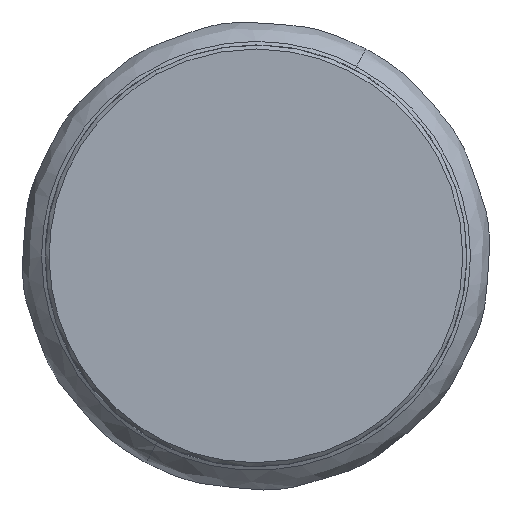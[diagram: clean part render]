
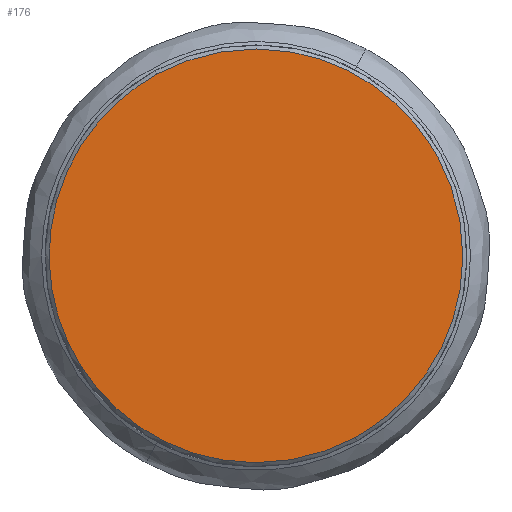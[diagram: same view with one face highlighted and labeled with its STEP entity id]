
A CAD part, left-side view. The second image highlights one B-rep face of the part: STEP entity #176.
In plain terms, the highlighted free-form (B-spline) face has degree [1, 1] with [2, 2] control points.
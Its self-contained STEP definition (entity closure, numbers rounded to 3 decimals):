
#176=ADVANCED_FACE('',(#349),#350,.T.);
#349=FACE_OUTER_BOUND('',#974,.T.);
#350=B_SPLINE_SURFACE_WITH_KNOTS('',1,1,((#975,#976),(#977,#978)),.UNSPECIFIED.,.F.,.F.,.F.,(2,2),(2,2),(0.0,31.1),(0.0,31.1),.UNSPECIFIED.);
#974=EDGE_LOOP('',(#1339,#1340,#1341));
#975=CARTESIAN_POINT('',(-36.441,-15.55,-15.55));
#976=CARTESIAN_POINT('',(-36.441,15.55,-15.55));
#977=CARTESIAN_POINT('',(-36.441,-15.55,15.55));
#978=CARTESIAN_POINT('',(-36.441,15.55,15.55));
#1339=ORIENTED_EDGE('',*,*,#1388,.F.);
#1340=ORIENTED_EDGE('',*,*,#1387,.F.);
#1341=ORIENTED_EDGE('',*,*,#1440,.F.);
#1387=EDGE_CURVE('',#1591,#1593,#1594,.T.);
#1388=EDGE_CURVE('',#1593,#1595,#1596,.T.);
#1440=EDGE_CURVE('',#1595,#1591,#1673,.T.);
#1591=VERTEX_POINT('',#2008);
#1593=VERTEX_POINT('',#2011);
#1594=(B_SPLINE_CURVE(2,(#2013,#2014,#2015),.UNSPECIFIED.,.F.,.F.)B_SPLINE_CURVE_WITH_KNOTS((3,3),(4.712,6.283),.UNSPECIFIED.)RATIONAL_B_SPLINE_CURVE((1.0,0.707,1.0))BOUNDED_CURVE()REPRESENTATION_ITEM('')GEOMETRIC_REPRESENTATION_ITEM()CURVE());
#1595=VERTEX_POINT('',#2022);
#1596=(B_SPLINE_CURVE(2,(#2024,#2025,#2026),.UNSPECIFIED.,.F.,.F.)B_SPLINE_CURVE_WITH_KNOTS((3,3),(0.,1.571),.UNSPECIFIED.)RATIONAL_B_SPLINE_CURVE((1.0,0.707,1.0))BOUNDED_CURVE()REPRESENTATION_ITEM('')GEOMETRIC_REPRESENTATION_ITEM()CURVE());
#1673=(B_SPLINE_CURVE(2,(#2204,#2205,#2206,#2207,#2208),.UNSPECIFIED.,.F.,.F.)B_SPLINE_CURVE_WITH_KNOTS((3,2,3),(1.571,3.142,4.712),.UNSPECIFIED.)RATIONAL_B_SPLINE_CURVE((1.0,0.707,1.0,0.707,1.0))BOUNDED_CURVE()REPRESENTATION_ITEM('')GEOMETRIC_REPRESENTATION_ITEM()CURVE());
#2008=CARTESIAN_POINT('',(-36.441,7.455,13.646));
#2011=CARTESIAN_POINT('',(-36.441,-13.646,7.455));
#2013=CARTESIAN_POINT('',(-36.441,7.455,13.646));
#2014=CARTESIAN_POINT('',(-36.441,-6.191,21.101));
#2015=CARTESIAN_POINT('',(-36.441,-13.646,7.455));
#2022=CARTESIAN_POINT('',(-36.441,-7.455,-13.646));
#2024=CARTESIAN_POINT('',(-36.441,-13.646,7.455));
#2025=CARTESIAN_POINT('',(-36.441,-21.101,-6.191));
#2026=CARTESIAN_POINT('',(-36.441,-7.455,-13.646));
#2204=CARTESIAN_POINT('',(-36.441,-7.455,-13.646));
#2205=CARTESIAN_POINT('',(-36.441,6.191,-21.101));
#2206=CARTESIAN_POINT('',(-36.441,13.646,-7.455));
#2207=CARTESIAN_POINT('',(-36.441,21.101,6.191));
#2208=CARTESIAN_POINT('',(-36.441,7.455,13.646));
